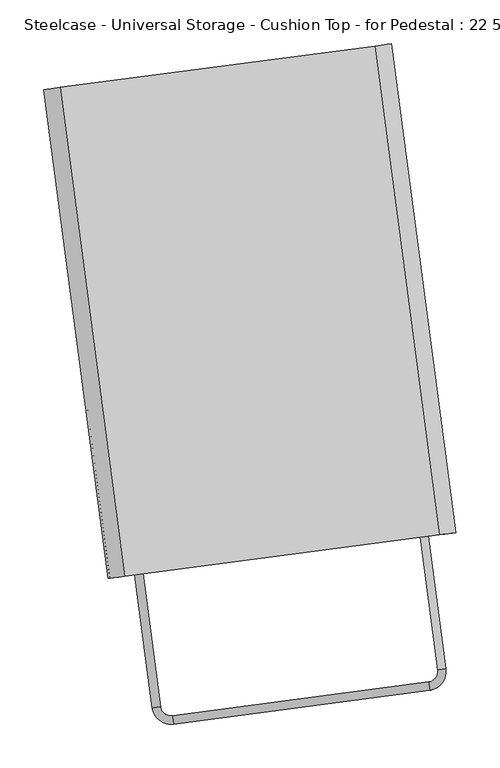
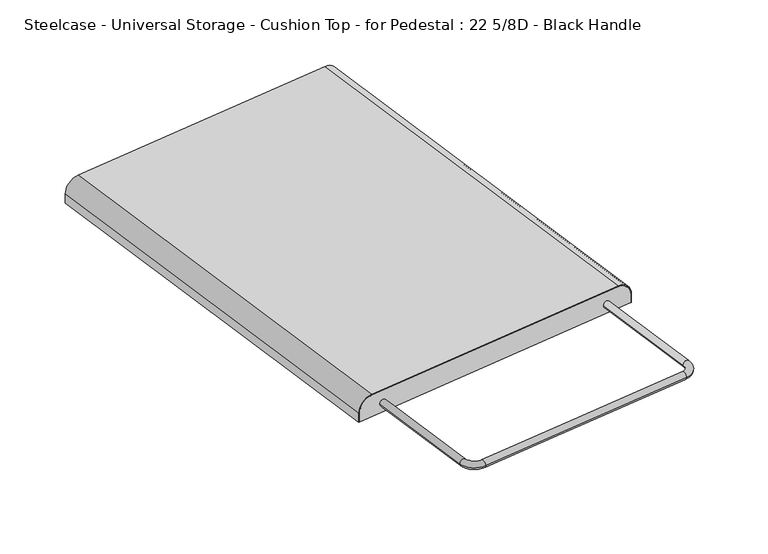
"""IFC4 building model written with IfcOpenShell, lengths in millimetres: furniture geometry, Steelcase - Universal Storage - Cushion Top - for Pedestal : 22 5/8D - Black Handle."""

from ifc_helpers import new_model, si_unit, point, frame, frame_2d, origin, place, context, project, spatial, polyline, circle_curve, ellipse_curve, trimmed, segment, composite_curve, outline, extrude, source, transform, mapped, element, save
from ifc_brep_helpers import plane_surface, cylinder_surface, revolved_surface, advanced_brep


def steelcase_universal_storage_cushion_top_for_pedestal_22_5_8d_e8428eb3(model_context):
    return source(origin(), model_context, "Body", "SolidModel", [
        advanced_brep(
        [(103.9219433, -554.0349727, 546.1), (113.3623083, -552.7921251, 546.1), (123.8539684, -705.4337335, 546.1), (133.2943334, -704.1908858, 546.1), (146.915981, -714.6430965, 546.1), (148.1588698, -724.0834561, 546.1), (440.6275498, -685.5779275, 546.1), (439.384661, -676.1375679, 546.1), (449.6115939, -662.6280598, 546.1), (459.0349523, -661.2622351, 546.1), (439.1092341, -509.9053254, 546.1), (429.6688692, -511.1481742, 546.1)],
        [
            (0, 1, circle_curve(frame((108.6421258, -553.4135489, 546.1), z_axis=(-0.13052619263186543, 0.9914448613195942, 0.0), x_axis=(0.9914448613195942, 0.13052619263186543, 0.0)), 4.7609128)),
            (1, 0, circle_curve(frame((108.6421258, -553.4135489, 546.1), z_axis=(-0.13052619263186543, 0.9914448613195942, 0.0), x_axis=(0.9914448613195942, 0.13052619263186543, 0.0)), 4.7609128)),
            (0, 2),
            (2, 3, circle_curve(frame((128.5741509, -704.8123097, 546.1), z_axis=(-0.13052619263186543, 0.9914448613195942, 0.0), x_axis=(0.9914448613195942, 0.13052619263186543, 0.0)), 4.7609128)),
            (3, 1),
            (3, 2, circle_curve(frame((128.5741509, -704.8123097, 546.1), z_axis=(-0.13052619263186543, 0.9914448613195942, 0.0), x_axis=(0.9914448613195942, 0.13052619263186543, 0.0)), 4.7609128)),
            (4, 3, circle_curve(frame((145.3312398, -702.606197, 546.1), z_axis=(0.0, 0.0, -1.0), x_axis=(-0.9914448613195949, -0.1305261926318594, 0.0)), 12.1407724)),
            (2, 5, circle_curve(frame((145.3312398, -702.606197, 546.1), z_axis=(0.0, 0.0, 1.0), x_axis=(-0.9914448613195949, -0.1305261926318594, 0.0)), 21.6625979)),
            (5, 4, circle_curve(frame((147.5374254, -719.3632763, 546.1), z_axis=(-0.9914442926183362, -0.13053051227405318, 0.0), x_axis=(-0.13053051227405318, 0.9914442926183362, 0.0)), 4.7609128)),
            (4, 5, circle_curve(frame((147.5374254, -719.3632763, 546.1), z_axis=(-0.991444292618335, -0.13053051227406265, 0.0), x_axis=(-0.13053051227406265, 0.991444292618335, 0.0)), 4.7609128)),
            (5, 6),
            (6, 7, circle_curve(frame((440.0061054, -680.8577477, 546.1), z_axis=(-0.9914442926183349, -0.13053051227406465, 0.0), x_axis=(-0.13053051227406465, 0.9914442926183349, 0.0)), 4.7609128)),
            (7, 4),
            (7, 6, circle_curve(frame((440.0061054, -680.8577477, 546.1), z_axis=(-0.9914442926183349, -0.13053051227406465, 0.0), x_axis=(-0.13053051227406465, 0.9914442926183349, 0.0)), 4.7609128)),
            (8, 7, circle_curve(frame((437.8308456, -664.3355654, 546.1), z_axis=(0.0, 0.0, -1.0), x_axis=(0.13053051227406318, -0.991444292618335, 0.0)), 11.9038483)),
            (6, 9, circle_curve(frame((437.8308456, -664.3355654, 546.1), z_axis=(0.0, 0.0, 1.0), x_axis=(0.13053051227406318, -0.991444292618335, 0.0)), 21.4256739)),
            (9, 8, circle_curve(frame((454.3232731, -661.9451475, 546.1), z_axis=(0.14344147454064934, -0.9896588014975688, 0.0), x_axis=(-0.9896588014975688, -0.14344147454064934, 0.0)), 4.7609128)),
            (8, 9, circle_curve(frame((454.3232731, -661.9451475, 546.1), z_axis=(0.1434414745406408, -0.98965880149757, 0.0), x_axis=(-0.98965880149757, -0.1434414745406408, 0.0)), 4.7609128)),
            (10, 11, circle_curve(frame((434.3890517, -510.5267498, 546.1), z_axis=(-0.1305263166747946, 0.9914448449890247, 0.0), x_axis=(-0.9914448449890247, -0.1305263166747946, 0.0)), 4.7609128)),
            (11, 10, circle_curve(frame((434.3890517, -510.5267498, 546.1), z_axis=(-0.1305263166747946, 0.9914448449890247, 0.0), x_axis=(-0.9914448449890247, -0.1305263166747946, 0.0)), 4.7609128)),
            (9, 10),
            (11, 8),
        ],
        [
            plane_surface(frame((113.3623083, -552.7921251, 533.4), z_axis=(-0.13052619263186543, 0.9914448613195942, 0.0), x_axis=(0.0, 0.0, 1.0))),
            cylinder_surface(frame((108.6421258, -553.4135489, 546.1), z_axis=(-0.13052619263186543, 0.9914448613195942, 0.0), x_axis=(0.9914448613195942, 0.13052619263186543, 0.0)), 4.7609128),
            revolved_surface(trimmed(ellipse_curve(frame((128.5741509, -704.8123097, 546.1), z_axis=(-0.13052619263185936, 0.9914448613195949, 0.0), x_axis=(0.9914448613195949, 0.13052619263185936, 0.0)), 4.7609128, 4.7609128), [point((123.8539684, -705.4337335, 546.1))], [point((133.2943334, -704.1908858, 546.1))], True, "CARTESIAN"), (145.3312398, -702.606197, 533.4), (0.0, 0.0, 1.0)),
            revolved_surface(trimmed(ellipse_curve(frame((128.5741509, -704.8123097, 546.1), z_axis=(-0.13052619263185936, 0.9914448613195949, 0.0), x_axis=(0.9914448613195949, 0.13052619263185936, 0.0)), 4.7609128, 4.7609128), [point((133.2943334, -704.1908858, 546.1))], [point((123.8539684, -705.4337335, 546.1))], True, "CARTESIAN"), (145.3312398, -702.606197, 533.4), (0.0, 0.0, 1.0)),
            cylinder_surface(frame((147.5374254, -719.3632763, 546.1), z_axis=(-0.9914442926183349, -0.13053051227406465, 0.0), x_axis=(-0.13053051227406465, 0.9914442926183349, 0.0)), 4.7609128),
            revolved_surface(trimmed(ellipse_curve(frame((440.0061054, -680.8577477, 546.1), z_axis=(-0.991444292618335, -0.130530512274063, 0.0), x_axis=(-0.130530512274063, 0.991444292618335, 0.0)), 4.7609128, 4.7609128), [point((440.6275498, -685.5779275, 546.1))], [point((439.384661, -676.1375679, 546.1))], True, "CARTESIAN"), (437.8308456, -664.3355654, 533.4), (0.0, 0.0, 1.0)),
            revolved_surface(trimmed(ellipse_curve(frame((440.0061054, -680.8577477, 546.1), z_axis=(-0.991444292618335, -0.130530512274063, 0.0), x_axis=(-0.130530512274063, 0.991444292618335, 0.0)), 4.7609128, 4.7609128), [point((439.384661, -676.1375679, 546.1))], [point((440.6275498, -685.5779275, 546.1))], True, "CARTESIAN"), (437.8308456, -664.3355654, 533.4), (0.0, 0.0, 1.0)),
            plane_surface(frame((429.6688692, -511.1481742, 533.4), z_axis=(-0.1305263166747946, 0.9914448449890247, 0.0), x_axis=(0.0, 0.0, 1.0))),
            cylinder_surface(frame((454.3317763, -662.0066354, 546.1), z_axis=(0.1305263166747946, -0.9914448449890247, 0.0), x_axis=(-0.9914448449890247, -0.1305263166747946, 0.0)), 4.7609128),
        ],
        [
            (0, [[1, 2]]),
            (1, [[-1, 3, 4, 5]]),
            (1, [[-2, -5, 6, -3]]),
            (2, [[7, -4, 8, 9]]),
            (3, [[-8, -6, -7, 10]]),
            (4, [[-9, 11, 12, 13]]),
            (4, [[-10, -13, 14, -11]]),
            (5, [[15, -12, 16, 17]]),
            (6, [[-16, -14, -15, 18]]),
            (7, [[19, 20]]),
            (8, [[-17, 21, -20, 22]]),
            (8, [[-18, -22, -19, -21]]),
        ],
    ),
        extrude(outline(composite_curve([segment(polyline([(12.4883434, 0.0), (12.4883434, -398.1718688), (0.9825059, -398.1718688)]), True, "CONTINUOUS"), segment(trimmed(circle_curve(frame_2d((0.9825059, -379.1218688)), 19.05), [point((0.9825059, -398.1718688))], [point((-18.0674941, -379.1218688))], False, "CARTESIAN"), True, "CONTINUOUS"), segment(polyline([(-18.0674941, -379.1218688), (-18.0674941, -18.0674941)]), True, "CONTINUOUS"), segment(trimmed(circle_curve(frame_2d((0.0, -18.0674941)), 18.0674941), [point((-18.0674941, -18.0674941))], [point((0.0, 0.0))], False, "CARTESIAN"), True, "CONTINUOUS"), segment(polyline([(0.0, 0.0), (12.4883434, 0.0)]), True, "CONTINUOUS")], self_intersect=False)), frame((74.6185321, -557.8930117, 545.8883434), z_axis=(-0.13053051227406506, 0.9914442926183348, 0.0), x_axis=(0.0, 0.0, -1.0)), (0.0, 0.0, 1.0), 543.1750172),
        extrude(outline(composite_curve([segment(polyline([(12.5218375, 0.0), (12.5218375, -1.016), (0.0334941, -1.016)]), True, "CONTINUOUS"), segment(trimmed(circle_curve(frame_2d((0.0334941, -19.0834941)), 18.0674941), [point((0.0334941, -1.016))], [point((-18.034, -19.0834941))], True, "CARTESIAN"), True, "CONTINUOUS"), segment(polyline([(-18.034, -19.0834941), (-18.034, -380.2817351)]), True, "CONTINUOUS"), segment(trimmed(circle_curve(frame_2d((1.016, -380.2817351)), 19.05), [point((-18.034, -380.2817351))], [point((1.016, -399.3317352))], True, "CARTESIAN"), True, "CONTINUOUS"), segment(polyline([(1.016, -399.3317352), (12.5218375, -399.3317352), (12.5218375, -400.3477352), (0.0538401, -400.3477352)]), True, "CONTINUOUS"), segment(trimmed(circle_curve(frame_2d((-0.0076377, -381.3054545)), 19.0423799), [point((0.0538401, -400.3477352))], [point((-19.05, -381.2795517))], False, "CARTESIAN"), True, "CONTINUOUS"), segment(polyline([(-19.05, -381.2795517), (-19.05, -19.05)]), True, "CONTINUOUS"), segment(trimmed(circle_curve(frame_2d((0.0, -19.05)), 19.05), [point((-19.05, -19.05))], [point((0.0, 0.0))], False, "CARTESIAN"), True, "CONTINUOUS"), segment(polyline([(0.0, 0.0), (12.5218375, 0.0)]), True, "CONTINUOUS")], self_intersect=False)), frame((73.4685892, -558.0444097, 545.9218375), z_axis=(-0.13053051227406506, 0.9914442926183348, 0.0), x_axis=(0.0, 0.0, -1.0)), (0.0, 0.0, 1.0), 562.2235172),
    ])


if __name__ == "__main__":
    model = new_model("IFC4")
    model_context = context("Model", 3, world=origin())
    ifc_project = project(units=[si_unit("LENGTHUNIT", "METRE", prefix="MILLI")], contexts=[model_context])
    site = spatial("IfcSite", under=ifc_project)
    building = spatial("IfcBuilding", under=site)
    placement = place(None, origin())
    steelcase_universal_storage_cushion_top_for_pedestal_22_5_8d_shape = steelcase_universal_storage_cushion_top_for_pedestal_22_5_8d_e8428eb3(model_context)
    element("IfcFurniture", 1, ObjectType="Steelcase - Universal Storage - Cushion Top - for Pedestal : 22 5/8D - Black Handle", at=placement, inside=building, context=model_context, shape_type="MappedRepresentation", body=[
        mapped(steelcase_universal_storage_cushion_top_for_pedestal_22_5_8d_shape, transform((0.0, 0.0, 0.0), x_axis=(1.0, 0.0, 0.0), y_axis=(0.0, 1.0, 0.0), z_axis=(0.0, 0.0, 1.0))),
    ])
    save(model, "model.ifc")
